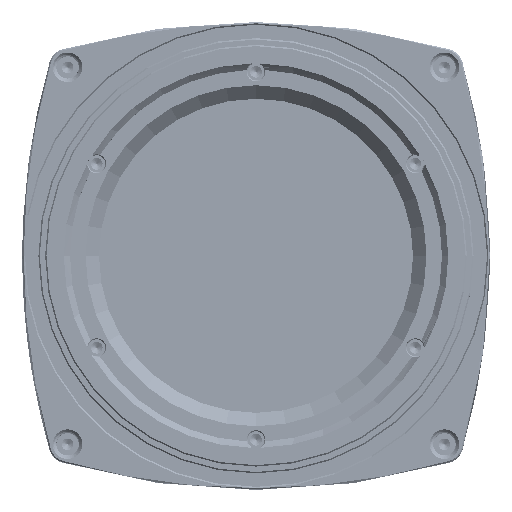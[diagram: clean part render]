
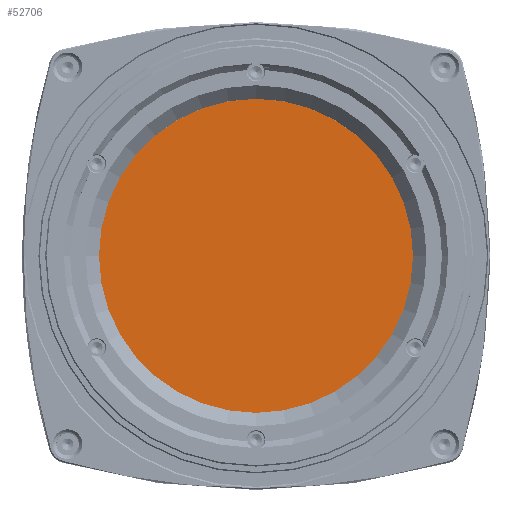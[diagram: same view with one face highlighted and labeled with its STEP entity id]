
A CAD part, top view. The second image highlights one B-rep face of the part: STEP entity #52706.
In plain terms, the highlighted planar face has unit normal (0, 0, 1).
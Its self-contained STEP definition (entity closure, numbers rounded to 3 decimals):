
#10531=FACE_OUTER_BOUND('',#77532,.T.);
#52706=ADVANCED_FACE('',(#10531),#64346,.F.);
#64346=PLANE('',#200778);
#77532=EDGE_LOOP('',(#94034));
#94034=ORIENTED_EDGE('',*,*,#165408,.F.);
#146688=VERTEX_POINT('',#311302);
#165408=EDGE_CURVE('',#146688,#146688,#191787,.T.);
#191787=CIRCLE('',#200775,17.5);
#200775=AXIS2_PLACEMENT_3D('',#311301,#221503,#221504);
#200778=AXIS2_PLACEMENT_3D('',#311305,#221509,#221510);
#221503=DIRECTION('',(0.,0.,-1.));
#221504=DIRECTION('',(1.,0.,0.));
#221509=DIRECTION('',(0.,0.,-1.));
#221510=DIRECTION('',(-1.,0.,0.));
#311301=CARTESIAN_POINT('',(0.,0.,1.));
#311302=CARTESIAN_POINT('',(17.5,0.,1.));
#311305=CARTESIAN_POINT('',(0.,0.,1.));
